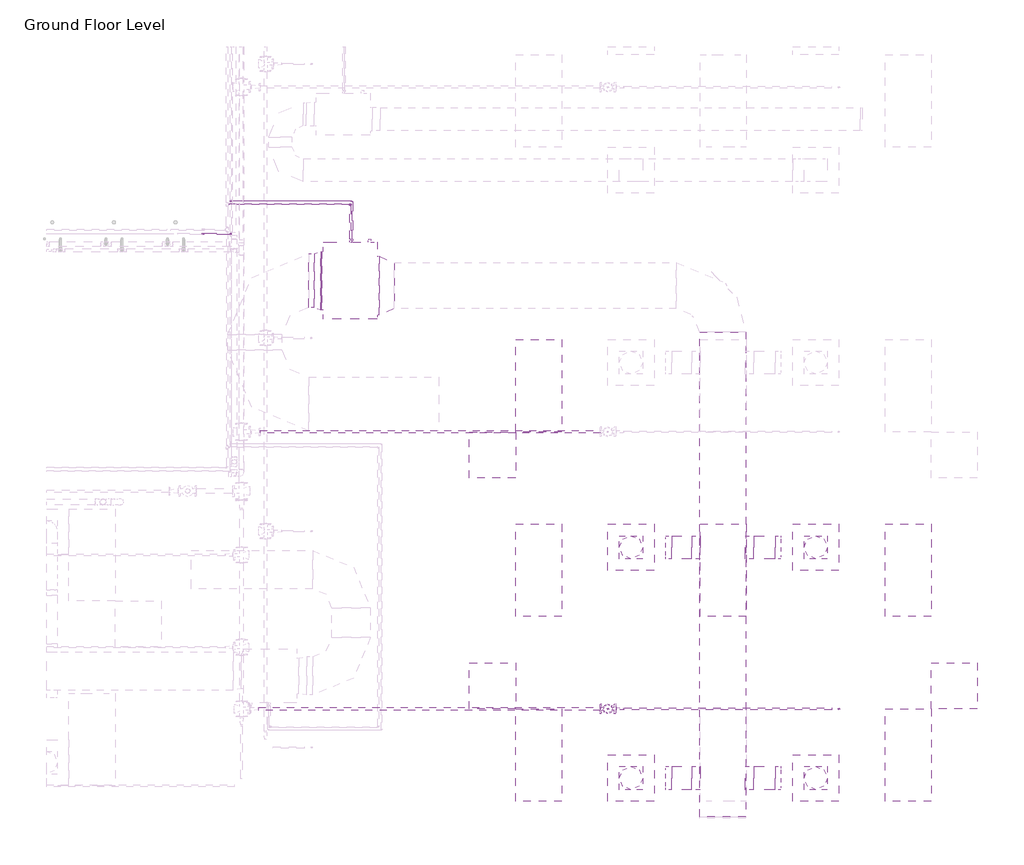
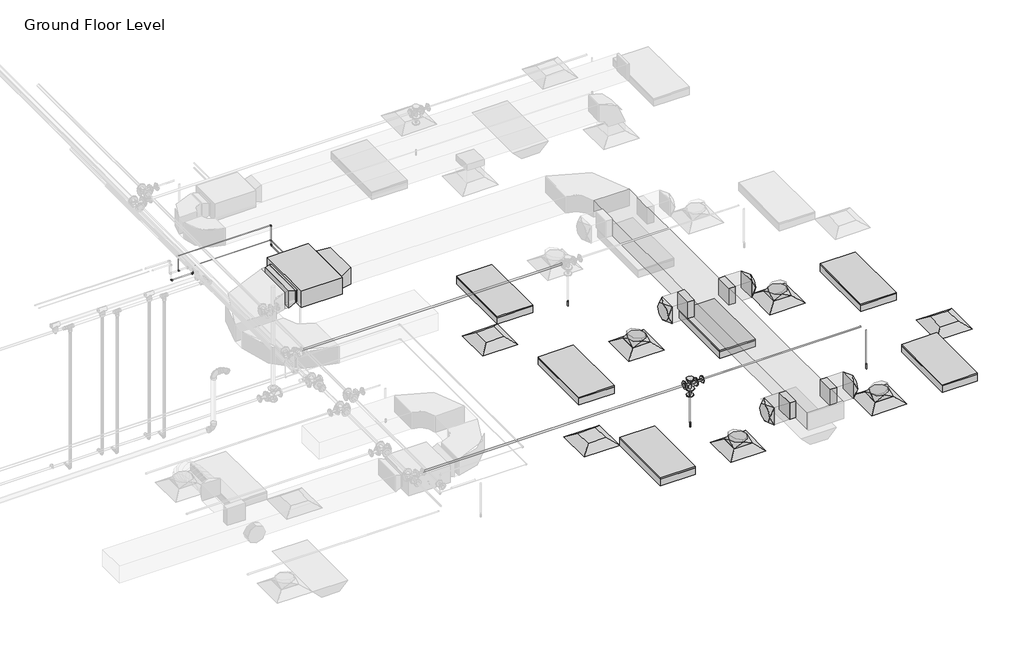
# One storey, part 19 of 75: 14 duct fittings, 13 pipe segments, 11 duct segments, 10 pipe fittings, 7 air terminals, 6 light fixtures, 3 fire suppression terminals, 1 proxy.
"""IFC4 building model written with IfcOpenShell, lengths in millimetres."""

from ifc_helpers import new_model, si_unit, point, frame, frame_2d, origin, place, context, project, spatial, polyline, circle_curve, ellipse_curve, trimmed, segment, composite_curve, outline, extrude, transform, mapped, element, save
from ifc_brep_helpers import plane_surface, cylinder_surface, advanced_brep
from components import m_return_diffuser_600_x_600_face_300_x_300_connection_ff221211, fcu_daikin_iu_7e1df382, m_rectangular_takeoff_standard_cb0ccb98, m_rectangular_takeoff_standard_2be5eba1, m_rectangular_transition_angle_45_degree_93a96896, m_rectangular_transition_angle_45_degree_f6cc18ae, m_rectangular_to_round_transition_angle_45_degree_641efff0, m_sprinkler_dry_pendent_hosted_15_mm_dry_pendent_9bda8e11, m_troffer_light_parabolic_rectangular1_0600x1200mm_4_lamp_86473d4a, m_elbow_generic_standard_a088f956, m_elbow_generic_standard_2a704253, m_elbow_generic_standard_bb5ffebe, m_reducer_flanged_cs_class_150_standard_ccf252ad, m_tee_round_base_flanged_cs_class_150_standard_7e5987a1, m_transition_generic_standard_2d362458

model = new_model("IFC4")

# Units and contexts
model_context = context("Model", 3, world=origin())
ifc_project = project(units=[si_unit("LENGTHUNIT", "METRE", prefix="MILLI")], contexts=[model_context])

# Site, building, storey
site = spatial("IfcSite", under=ifc_project)
building = spatial("IfcBuilding", under=site)
storey = spatial("IfcBuildingStorey", under=building, Name="Ground Floor Level", Elevation=900.0)

# Air terminals
placement = place(None, origin())
m_return_diffuser_600_x_600_face_300_x_300_connection_shape = m_return_diffuser_600_x_600_face_300_x_300_connection_ff221211(model_context)
element("IfcAirTerminal", 1, ObjectType="M_Return Diffuser : 600 x 600 Face 300 x 300 Connection", at=placement, inside=storey, context=model_context, shape_type="MappedRepresentation", body=[
    mapped(m_return_diffuser_600_x_600_face_300_x_300_connection_shape, transform((8943.0482736, -35564.7846466, 3650.0), x_axis=(1.0, 0.0, 0.0), y_axis=(0.0, 1.0, 0.0), z_axis=(0.0, 0.0, 1.0))),
])
element("IfcAirTerminal", 2, ObjectType="M_Return Diffuser : 600 x 600 Face 300 x 300 Connection", at=placement, inside=storey, context=model_context, shape_type="MappedRepresentation", body=[
    mapped(m_return_diffuser_600_x_600_face_300_x_300_connection_shape, transform((8943.0482736, -38564.7846466, 3650.0), x_axis=(1.0, 0.0, 0.0), y_axis=(0.0, 1.0, 0.0), z_axis=(0.0, 0.0, 1.0))),
])
element("IfcAirTerminal", 3, ObjectType="M_Return Diffuser : 600 x 600 Face 300 x 300 Connection", at=placement, inside=storey, context=model_context, shape_type="MappedRepresentation", body=[
    mapped(m_return_diffuser_600_x_600_face_300_x_300_connection_shape, transform((14943.0482736, -38564.7846466, 3650.0), x_axis=(1.0, 0.0, 0.0), y_axis=(0.0, 1.0, 0.0), z_axis=(0.0, 0.0, 1.0))),
])
element("IfcAirTerminal", 4, ObjectType="M_Supply Diffuser : 600 x 600 Face 300 x 300 Connection", at=placement, inside=storey, context=model_context, shape_type="MappedRepresentation", body=[
    mapped(m_return_diffuser_600_x_600_face_300_x_300_connection_shape, transform((10742.7672395, -39764.7846466, 3650.0), x_axis=(1.0, 0.0, 0.0), y_axis=(0.0, 1.0, 0.0), z_axis=(0.0, 0.0, 1.0))),
])
element("IfcAirTerminal", 5, ObjectType="M_Supply Diffuser : 600 x 600 Face 300 x 300 Connection", at=placement, inside=storey, context=model_context, shape_type="MappedRepresentation", body=[
    mapped(m_return_diffuser_600_x_600_face_300_x_300_connection_shape, transform((13142.7672395, -39764.7846466, 3650.0), x_axis=(1.0, 0.0, 0.0), y_axis=(0.0, 1.0, 0.0), z_axis=(0.0, 0.0, 1.0))),
])
element("IfcAirTerminal", 6, ObjectType="M_Supply Diffuser : 600 x 600 Face 300 x 300 Connection", at=placement, inside=storey, context=model_context, shape_type="MappedRepresentation", body=[
    mapped(m_return_diffuser_600_x_600_face_300_x_300_connection_shape, transform((10742.7672395, -36764.7846466, 3650.0), x_axis=(1.0, 0.0, 0.0), y_axis=(0.0, 1.0, 0.0), z_axis=(0.0, 0.0, 1.0))),
])
element("IfcAirTerminal", 7, ObjectType="M_Supply Diffuser : 600 x 600 Face 300 x 300 Connection", at=placement, inside=storey, context=model_context, shape_type="MappedRepresentation", body=[
    mapped(m_return_diffuser_600_x_600_face_300_x_300_connection_shape, transform((13142.7672395, -36764.7846466, 3650.0), x_axis=(1.0, 0.0, 0.0), y_axis=(0.0, 1.0, 0.0), z_axis=(0.0, 0.0, 1.0))),
])

# Proxy
fcu_daikin_iu_shape = fcu_daikin_iu_7e1df382(model_context)
element("IfcBuildingElementProxy", 8, Name="FCU-DAIKIN IU : 7.2kW, 230V/50Hz/1Ph", ObjectType="FCU-DAIKIN IU : 7.2kW, 230V/50Hz/1Ph", at=placement, inside=storey, context=model_context, shape_type="MappedRepresentation", body=[
    mapped(fcu_daikin_iu_shape, transform((7098.4644074, -33301.2726336, 3934.0875), x_axis=(0.0, 1.0, 0.0), y_axis=(-1.0, 0.0, 0.0), z_axis=(0.0, 0.0, 1.0))),
])

# Duct fittings
m_rectangular_takeoff_standard_shape = m_rectangular_takeoff_standard_cb0ccb98(model_context)
element("IfcDuctFitting", 9, ObjectType="M_Rectangular Takeoff : Standard", at=placement, inside=storey, context=model_context, shape_type="MappedRepresentation", body=[
    mapped(m_rectangular_takeoff_standard_shape, transform((12233.8644074, -36764.7846466, 4099.9875), x_axis=(1.0, 0.0, 0.0), y_axis=(0.0, -1.0, 0.0), z_axis=(0.0, 0.0, -1.0))),
])
element("IfcDuctFitting", 10, ObjectType="M_Rectangular Takeoff : Standard", at=placement, inside=storey, context=model_context, shape_type="MappedRepresentation", body=[
    mapped(m_rectangular_takeoff_standard_shape, transform((12233.8644074, -39764.7846466, 4099.9875), x_axis=(1.0, 0.0, 0.0), y_axis=(0.0, -1.0, 0.0), z_axis=(0.0, 0.0, -1.0))),
])
m_rectangular_takeoff_standard_2_shape = m_rectangular_takeoff_standard_2be5eba1(model_context)
element("IfcDuctFitting", 11, ObjectType="M_Rectangular Takeoff : Standard", at=placement, inside=storey, context=model_context, shape_type="MappedRepresentation", body=[
    mapped(m_rectangular_takeoff_standard_2_shape, transform((11633.8644074, -36764.7846466, 4099.9875), x_axis=(-1.0, 0.0, 0.0), y_axis=(0.0, 1.0, 0.0), z_axis=(0.0, 0.0, -1.0))),
])
element("IfcDuctFitting", 12, ObjectType="M_Rectangular Takeoff : Standard", at=placement, inside=storey, context=model_context, shape_type="MappedRepresentation", body=[
    mapped(m_rectangular_takeoff_standard_2_shape, transform((11633.8644074, -39764.7846466, 4099.9875), x_axis=(-1.0, 0.0, 0.0), y_axis=(0.0, 1.0, 0.0), z_axis=(0.0, 0.0, -1.0))),
])
m_rectangular_transition_angle_45_degree_shape = m_rectangular_transition_angle_45_degree_93a96896(model_context)
element("IfcDuctFitting", 13, ObjectType="M_Rectangular Transition - Angle : 45 Degree", at=placement, inside=storey, context=model_context, shape_type="MappedRepresentation", body=[
    mapped(m_rectangular_transition_angle_45_degree_shape, transform((7473.8644074, -33364.7726336, 4100.0), x_axis=(1.0, 0.0, 0.0), y_axis=(0.0, 1.0, 0.0), z_axis=(0.0, 0.0, 1.0))),
])
m_rectangular_transition_angle_45_degree_2_shape = m_rectangular_transition_angle_45_degree_f6cc18ae(model_context)
element("IfcDuctFitting", 14, ObjectType="M_Rectangular Transition - Angle : 45 Degree", at=placement, inside=storey, context=model_context, shape_type="MappedRepresentation", body=[
    mapped(m_rectangular_transition_angle_45_degree_2_shape, transform((6711.4162578, -33301.2726336, 4075.2908943), x_axis=(-0.9999999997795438, 0.0, 2.0997916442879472e-05), y_axis=(0.0, -1.0, 0.0), z_axis=(2.0997916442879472e-05, 0.0, 0.9999999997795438))),
])
m_rectangular_to_round_transition_angle_45_degree_shape = m_rectangular_to_round_transition_angle_45_degree_641efff0(model_context)
element("IfcDuctFitting", 15, ObjectType="M_Rectangular to Round Transition - Angle : 45 Degree", at=placement, inside=storey, context=model_context, shape_type="MappedRepresentation", body=[
    mapped(m_rectangular_to_round_transition_angle_45_degree_shape, transform((13142.7672395, -36764.7846466, 3751.6), x_axis=(0.0, 0.0, 1.0), y_axis=(-1.0, 0.0, 0.0), z_axis=(0.0, -1.0, 0.0))),
])
element("IfcDuctFitting", 16, ObjectType="M_Rectangular to Round Transition - Angle : 45 Degree", at=placement, inside=storey, context=model_context, shape_type="MappedRepresentation", body=[
    mapped(m_rectangular_to_round_transition_angle_45_degree_shape, transform((12615.4188082, -36764.7846466, 4099.9875), x_axis=(1.0, 0.0, 0.0), y_axis=(0.0, 1.0, 0.0), z_axis=(0.0, 0.0, 1.0))),
])
element("IfcDuctFitting", 17, ObjectType="M_Rectangular to Round Transition - Angle : 45 Degree", at=placement, inside=storey, context=model_context, shape_type="MappedRepresentation", body=[
    mapped(m_rectangular_to_round_transition_angle_45_degree_shape, transform((10742.7672395, -36764.7846466, 3751.6), x_axis=(0.0, 0.0, 1.0), y_axis=(-1.0, 0.0, 0.0), z_axis=(0.0, -1.0, 0.0))),
])
element("IfcDuctFitting", 18, ObjectType="M_Rectangular to Round Transition - Angle : 45 Degree", at=placement, inside=storey, context=model_context, shape_type="MappedRepresentation", body=[
    mapped(m_rectangular_to_round_transition_angle_45_degree_shape, transform((11270.1156708, -36764.7846466, 4099.9875), x_axis=(-1.0, 0.0, 0.0), y_axis=(0.0, -1.0, 0.0), z_axis=(0.0, 0.0, 1.0))),
])
element("IfcDuctFitting", 19, ObjectType="M_Rectangular to Round Transition - Angle : 45 Degree", at=placement, inside=storey, context=model_context, shape_type="MappedRepresentation", body=[
    mapped(m_rectangular_to_round_transition_angle_45_degree_shape, transform((10742.7672395, -39764.7846466, 3751.6), x_axis=(0.0, 0.0, 1.0), y_axis=(-1.0, 0.0, 0.0), z_axis=(0.0, -1.0, 0.0))),
])
element("IfcDuctFitting", 20, ObjectType="M_Rectangular to Round Transition - Angle : 45 Degree", at=placement, inside=storey, context=model_context, shape_type="MappedRepresentation", body=[
    mapped(m_rectangular_to_round_transition_angle_45_degree_shape, transform((11270.1156708, -39764.7846466, 4099.9875), x_axis=(-1.0, 0.0, 0.0), y_axis=(0.0, -1.0, 0.0), z_axis=(0.0, 0.0, 1.0))),
])
element("IfcDuctFitting", 21, ObjectType="M_Rectangular to Round Transition - Angle : 45 Degree", at=placement, inside=storey, context=model_context, shape_type="MappedRepresentation", body=[
    mapped(m_rectangular_to_round_transition_angle_45_degree_shape, transform((13142.7672395, -39764.7846466, 3751.6), x_axis=(0.0, 0.0, 1.0), y_axis=(-1.0, 0.0, 0.0), z_axis=(0.0, -1.0, 0.0))),
])
element("IfcDuctFitting", 22, ObjectType="M_Rectangular to Round Transition - Angle : 45 Degree", at=placement, inside=storey, context=model_context, shape_type="MappedRepresentation", body=[
    mapped(m_rectangular_to_round_transition_angle_45_degree_shape, transform((12615.4188082, -39764.7846466, 4099.9875), x_axis=(1.0, 0.0, 0.0), y_axis=(0.0, 1.0, 0.0), z_axis=(0.0, 0.0, 1.0))),
])

# Duct segments
element("IfcDuctSegment", 23, ObjectType="Flex - Round", at=placement, inside=storey, context=model_context, shape_type="AdvancedBrep", body=[
    advanced_brep(
    [(13292.7672395, -36764.7846466, 3826.6), (13142.7672395, -36914.7846466, 3826.6), (12992.7672395, -36764.7846466, 3826.6), (13142.7672395, -36614.7846466, 3826.6), (13292.7672395, -36764.7846466, 3899.2205895), (13142.7672395, -36614.7846466, 3864.5152119), (12992.7672395, -36764.7846466, 3829.8098344), (13142.7672395, -36914.7846466, 3864.5152119)],
    [
        (0, 1, circle_curve(frame((13142.7672395, -36764.7846466, 3826.6), z_axis=(0.0, 0.0, -1.0), x_axis=(1.0, 0.0, 0.0)), 150.0)),
        (1, 2, circle_curve(frame((13142.7672395, -36764.7846466, 3826.6), z_axis=(0.0, 0.0, -1.0), x_axis=(1.0, 0.0, 0.0)), 150.0)),
        (2, 3, circle_curve(frame((13142.7672395, -36764.7846466, 3826.6), z_axis=(0.0, 0.0, -1.0), x_axis=(1.0, 0.0, 0.0)), 150.0)),
        (3, 0, circle_curve(frame((13142.7672395, -36764.7846466, 3826.6), z_axis=(0.0, 0.0, -1.0), x_axis=(1.0, 0.0, 0.0)), 150.0)),
        (4, 5, ellipse_curve(frame((13142.7672395, -36764.7846466, 3864.5152119), z_axis=(-0.22541442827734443, 0.0, 0.9742629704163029), x_axis=(-0.9742629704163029, 0.0, -0.22541442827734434)), 153.9625384, 150.0)),
        (5, 6, ellipse_curve(frame((13142.7672395, -36764.7846466, 3864.5152119), z_axis=(-0.22541442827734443, 0.0, 0.9742629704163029), x_axis=(-0.9742629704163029, 0.0, -0.22541442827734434)), 153.9625384, 150.0)),
        (6, 7, ellipse_curve(frame((13142.7672395, -36764.7846466, 3864.5152119), z_axis=(-0.22541442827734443, 0.0, 0.9742629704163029), x_axis=(-0.9742629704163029, 0.0, -0.22541442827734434)), 153.9625384, 150.0)),
        (7, 4, ellipse_curve(frame((13142.7672395, -36764.7846466, 3864.5152119), z_axis=(-0.22541442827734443, 0.0, 0.9742629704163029), x_axis=(-0.9742629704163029, 0.0, -0.22541442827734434)), 153.9625384, 150.0)),
        (0, 4),
        (7, 1),
        (6, 2),
        (5, 3),
    ],
    [
        plane_surface(frame((13142.7672395, -36914.7846466, 3826.6), z_axis=(0.0, 0.0, -1.0), x_axis=(1.0, 0.0, 0.0))),
        plane_surface(frame((13142.7672395, -36614.7846466, 3864.5152119), z_axis=(-0.22541442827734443, 0.0, 0.9742629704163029), x_axis=(-0.9742629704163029, 0.0, -0.22541442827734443))),
        cylinder_surface(frame((13142.7672395, -36764.7846466, 3826.6), z_axis=(0.0, 0.0, -1.0), x_axis=(1.0, 0.0, 0.0)), 150.0),
    ],
    [
        (0, [[1, 2, 3, 4]]),
        (1, [[5, 6, 7, 8]]),
        (2, [[-1, 9, -8, 10]]),
        (2, [[-2, -10, -7, 11]]),
        (2, [[-3, -11, -6, 12]]),
        (2, [[-4, -12, -5, -9]]),
    ],
),
])
element("IfcDuctSegment", 24, ObjectType="Flex - Round", at=placement, inside=storey, context=model_context, shape_type="AdvancedBrep", body=[
    advanced_brep(
    [(10892.7672395, -36764.7846466, 3826.6), (10742.7672395, -36914.7846466, 3826.6), (10592.7672395, -36764.7846466, 3826.6), (10742.7672395, -36614.7846466, 3826.6), (10892.7672395, -36764.7846466, 3829.8098344), (10742.7672395, -36614.7846466, 3864.5152119), (10592.7672395, -36764.7846466, 3899.2205895), (10742.7672395, -36914.7846466, 3864.5152119)],
    [
        (0, 1, circle_curve(frame((10742.7672395, -36764.7846466, 3826.6), z_axis=(0.0, 0.0, -1.0), x_axis=(1.0, 0.0, 0.0)), 150.0)),
        (1, 2, circle_curve(frame((10742.7672395, -36764.7846466, 3826.6), z_axis=(0.0, 0.0, -1.0), x_axis=(1.0, 0.0, 0.0)), 150.0)),
        (2, 3, circle_curve(frame((10742.7672395, -36764.7846466, 3826.6), z_axis=(0.0, 0.0, -1.0), x_axis=(1.0, 0.0, 0.0)), 150.0)),
        (3, 0, circle_curve(frame((10742.7672395, -36764.7846466, 3826.6), z_axis=(0.0, 0.0, -1.0), x_axis=(1.0, 0.0, 0.0)), 150.0)),
        (4, 5, ellipse_curve(frame((10742.7672395, -36764.7846466, 3864.5152119), z_axis=(0.22541442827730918, 0.0, 0.9742629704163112), x_axis=(0.9742629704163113, 0.0, -0.2254144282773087)), 153.9625384, 150.0)),
        (5, 6, ellipse_curve(frame((10742.7672395, -36764.7846466, 3864.5152119), z_axis=(0.22541442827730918, 0.0, 0.9742629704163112), x_axis=(0.9742629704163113, 0.0, -0.2254144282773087)), 153.9625384, 150.0)),
        (6, 7, ellipse_curve(frame((10742.7672395, -36764.7846466, 3864.5152119), z_axis=(0.22541442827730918, 0.0, 0.9742629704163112), x_axis=(0.9742629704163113, 0.0, -0.2254144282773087)), 153.9625384, 150.0)),
        (7, 4, ellipse_curve(frame((10742.7672395, -36764.7846466, 3864.5152119), z_axis=(0.22541442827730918, 0.0, 0.9742629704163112), x_axis=(0.9742629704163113, 0.0, -0.2254144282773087)), 153.9625384, 150.0)),
        (0, 4),
        (7, 1),
        (6, 2),
        (5, 3),
    ],
    [
        plane_surface(frame((10742.7672395, -36914.7846466, 3826.6), z_axis=(0.0, 0.0, -1.0), x_axis=(1.0, 0.0, 0.0))),
        plane_surface(frame((10742.7672395, -36914.7846466, 3864.5152119), z_axis=(0.22541442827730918, 0.0, 0.9742629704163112), x_axis=(0.9742629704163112, 0.0, -0.22541442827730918))),
        cylinder_surface(frame((10742.7672395, -36764.7846466, 3826.6), z_axis=(0.0, 0.0, -1.0), x_axis=(1.0, 0.0, 0.0)), 150.0),
    ],
    [
        (0, [[1, 2, 3, 4]]),
        (1, [[5, 6, 7, 8]]),
        (2, [[-1, 9, -8, 10]]),
        (2, [[-2, -10, -7, 11]]),
        (2, [[-3, -11, -6, 12]]),
        (2, [[-4, -12, -5, -9]]),
    ],
),
])
element("IfcDuctSegment", 25, ObjectType="Flex - Round", at=placement, inside=storey, context=model_context, shape_type="AdvancedBrep", body=[
    advanced_brep(
    [(10892.7672395, -39764.7846466, 3826.6), (10742.7672395, -39914.7846466, 3826.6), (10592.7672395, -39764.7846466, 3826.6), (10742.7672395, -39614.7846466, 3826.6), (10892.7672395, -39764.7846466, 3829.8098344), (10742.7672395, -39614.7846466, 3864.5152119), (10592.7672395, -39764.7846466, 3899.2205895), (10742.7672395, -39914.7846466, 3864.5152119)],
    [
        (0, 1, circle_curve(frame((10742.7672395, -39764.7846466, 3826.6), z_axis=(0.0, 0.0, -1.0), x_axis=(1.0, 0.0, 0.0)), 150.0)),
        (1, 2, circle_curve(frame((10742.7672395, -39764.7846466, 3826.6), z_axis=(0.0, 0.0, -1.0), x_axis=(1.0, 0.0, 0.0)), 150.0)),
        (2, 3, circle_curve(frame((10742.7672395, -39764.7846466, 3826.6), z_axis=(0.0, 0.0, -1.0), x_axis=(1.0, 0.0, 0.0)), 150.0)),
        (3, 0, circle_curve(frame((10742.7672395, -39764.7846466, 3826.6), z_axis=(0.0, 0.0, -1.0), x_axis=(1.0, 0.0, 0.0)), 150.0)),
        (4, 5, ellipse_curve(frame((10742.7672395, -39764.7846466, 3864.5152119), z_axis=(0.22541442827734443, 0.0, 0.9742629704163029), x_axis=(0.9742629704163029, 0.0, -0.22541442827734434)), 153.9625384, 150.0)),
        (5, 6, ellipse_curve(frame((10742.7672395, -39764.7846466, 3864.5152119), z_axis=(0.22541442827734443, 0.0, 0.9742629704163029), x_axis=(0.9742629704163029, 0.0, -0.22541442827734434)), 153.9625384, 150.0)),
        (6, 7, ellipse_curve(frame((10742.7672395, -39764.7846466, 3864.5152119), z_axis=(0.22541442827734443, 0.0, 0.9742629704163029), x_axis=(0.9742629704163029, 0.0, -0.22541442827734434)), 153.9625384, 150.0)),
        (7, 4, ellipse_curve(frame((10742.7672395, -39764.7846466, 3864.5152119), z_axis=(0.22541442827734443, 0.0, 0.9742629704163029), x_axis=(0.9742629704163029, 0.0, -0.22541442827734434)), 153.9625384, 150.0)),
        (0, 4),
        (7, 1),
        (6, 2),
        (5, 3),
    ],
    [
        plane_surface(frame((10742.7672395, -39914.7846466, 3826.6), z_axis=(0.0, 0.0, -1.0), x_axis=(1.0, 0.0, 0.0))),
        plane_surface(frame((10742.7672395, -39914.7846466, 3864.5152119), z_axis=(0.22541442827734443, 0.0, 0.9742629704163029), x_axis=(0.9742629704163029, 0.0, -0.22541442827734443))),
        cylinder_surface(frame((10742.7672395, -39764.7846466, 3826.6), z_axis=(0.0, 0.0, -1.0), x_axis=(1.0, 0.0, 0.0)), 150.0),
    ],
    [
        (0, [[1, 2, 3, 4]]),
        (1, [[5, 6, 7, 8]]),
        (2, [[-1, 9, -8, 10]]),
        (2, [[-2, -10, -7, 11]]),
        (2, [[-3, -11, -6, 12]]),
        (2, [[-4, -12, -5, -9]]),
    ],
),
])
element("IfcDuctSegment", 26, ObjectType="Flex - Round", at=placement, inside=storey, context=model_context, shape_type="AdvancedBrep", body=[
    advanced_brep(
    [(13292.7672395, -39764.7846466, 3826.6), (13142.7672395, -39914.7846466, 3826.6), (12992.7672395, -39764.7846466, 3826.6), (13142.7672395, -39614.7846466, 3826.6), (13292.7672395, -39764.7846466, 3899.2205895), (13142.7672395, -39614.7846466, 3864.5152119), (12992.7672395, -39764.7846466, 3829.8098344), (13142.7672395, -39914.7846466, 3864.5152119)],
    [
        (0, 1, circle_curve(frame((13142.7672395, -39764.7846466, 3826.6), z_axis=(0.0, 0.0, -1.0), x_axis=(1.0, 0.0, 0.0)), 150.0)),
        (1, 2, circle_curve(frame((13142.7672395, -39764.7846466, 3826.6), z_axis=(0.0, 0.0, -1.0), x_axis=(1.0, 0.0, 0.0)), 150.0)),
        (2, 3, circle_curve(frame((13142.7672395, -39764.7846466, 3826.6), z_axis=(0.0, 0.0, -1.0), x_axis=(1.0, 0.0, 0.0)), 150.0)),
        (3, 0, circle_curve(frame((13142.7672395, -39764.7846466, 3826.6), z_axis=(0.0, 0.0, -1.0), x_axis=(1.0, 0.0, 0.0)), 150.0)),
        (4, 5, ellipse_curve(frame((13142.7672395, -39764.7846466, 3864.5152119), z_axis=(-0.22541442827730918, 0.0, 0.9742629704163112), x_axis=(-0.9742629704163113, 0.0, -0.2254144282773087)), 153.9625384, 150.0)),
        (5, 6, ellipse_curve(frame((13142.7672395, -39764.7846466, 3864.5152119), z_axis=(-0.22541442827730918, 0.0, 0.9742629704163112), x_axis=(-0.9742629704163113, 0.0, -0.2254144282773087)), 153.9625384, 150.0)),
        (6, 7, ellipse_curve(frame((13142.7672395, -39764.7846466, 3864.5152119), z_axis=(-0.22541442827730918, 0.0, 0.9742629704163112), x_axis=(-0.9742629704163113, 0.0, -0.2254144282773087)), 153.9625384, 150.0)),
        (7, 4, ellipse_curve(frame((13142.7672395, -39764.7846466, 3864.5152119), z_axis=(-0.22541442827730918, 0.0, 0.9742629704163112), x_axis=(-0.9742629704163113, 0.0, -0.2254144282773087)), 153.9625384, 150.0)),
        (0, 4),
        (7, 1),
        (6, 2),
        (5, 3),
    ],
    [
        plane_surface(frame((13142.7672395, -39914.7846466, 3826.6), z_axis=(0.0, 0.0, -1.0), x_axis=(1.0, 0.0, 0.0))),
        plane_surface(frame((13142.7672395, -39614.7846466, 3864.5152119), z_axis=(-0.22541442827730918, 0.0, 0.9742629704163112), x_axis=(-0.9742629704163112, 0.0, -0.22541442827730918))),
        cylinder_surface(frame((13142.7672395, -39764.7846466, 3826.6), z_axis=(0.0, 0.0, -1.0), x_axis=(1.0, 0.0, 0.0)), 150.0),
    ],
    [
        (0, [[1, 2, 3, 4]]),
        (1, [[5, 6, 7, 8]]),
        (2, [[-1, 9, -8, 10]]),
        (2, [[-2, -10, -7, 11]]),
        (2, [[-3, -11, -6, 12]]),
        (2, [[-4, -12, -5, -9]]),
    ],
),
])
element("IfcDuctSegment", 27, ObjectType="Radius Elbows / Taps", at=placement, inside=storey, context=model_context, shape_type="SweptSolid", body=[
    extrude(outline(polyline([(11633.8644074, -33964.7726336), (12233.8644074, -33964.7726336), (12233.8644074, -40264.7726336), (11633.8644074, -40264.7726336), (11633.8644074, -33964.7726336)])), frame((0.0, 0.0, 3949.9875), z_axis=(0.0, 0.0, 1.0), x_axis=(1.0, 0.0, 0.0)), (0.0, 0.0, 1.0), 300.0),
])
element("IfcDuctSegment", 28, ObjectType="Radius Elbows / Taps", at=placement, inside=storey, context=model_context, shape_type="SweptSolid", body=[
    extrude(outline(polyline([(12335.4644074, -36914.7846466), (12335.4644074, -36614.7846466), (12615.4188082, -36614.7846466), (12615.4188082, -36914.7846466), (12335.4644074, -36914.7846466)])), frame((0.0, 0.0, 3949.9875), z_axis=(0.0, 0.0, 1.0), x_axis=(1.0, 0.0, 0.0)), (0.0, 0.0, 1.0), 300.0),
])
element("IfcDuctSegment", 29, ObjectType="Radius Elbows / Taps", at=placement, inside=storey, context=model_context, shape_type="SweptSolid", body=[
    extrude(outline(polyline([(11532.2644074, -36614.7846466), (11532.2644074, -36914.7846466), (11270.1156708, -36914.7846466), (11270.1156708, -36614.7846466), (11532.2644074, -36614.7846466)])), frame((0.0, 0.0, 3949.9875), z_axis=(0.0, 0.0, 1.0), x_axis=(1.0, 0.0, 0.0)), (0.0, 0.0, 1.0), 300.0),
])
element("IfcDuctSegment", 30, ObjectType="Radius Elbows / Taps", at=placement, inside=storey, context=model_context, shape_type="SweptSolid", body=[
    extrude(outline(polyline([(11532.2644074, -39614.7846466), (11532.2644074, -39914.7846466), (11270.1156708, -39914.7846466), (11270.1156708, -39614.7846466), (11532.2644074, -39614.7846466)])), frame((0.0, 0.0, 3949.9875), z_axis=(0.0, 0.0, 1.0), x_axis=(1.0, 0.0, 0.0)), (0.0, 0.0, 1.0), 300.0),
])
element("IfcDuctSegment", 31, ObjectType="Radius Elbows / Taps", at=placement, inside=storey, context=model_context, shape_type="SweptSolid", body=[
    extrude(outline(polyline([(12335.4644074, -39914.7846466), (12335.4644074, -39614.7846466), (12615.4188082, -39614.7846466), (12615.4188082, -39914.7846466), (12335.4644074, -39914.7846466)])), frame((0.0, 0.0, 3949.9875), z_axis=(0.0, 0.0, 1.0), x_axis=(1.0, 0.0, 0.0)), (0.0, 0.0, 1.0), 300.0),
])
element("IfcDuctSegment", 32, ObjectType="Radius Elbows / Taps", at=placement, inside=storey, context=model_context, shape_type="SweptSolid", body=[
    extrude(outline(polyline([(0.0, -761.875), (0.0, 0.0), (11.6481501, 0.0), (11.6481501, -761.875), (0.0, -761.875)])), frame((6711.3850343, -32920.3351336, 3968.1408988), z_axis=(0.00029140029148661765, 0.0, 0.9999999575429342), x_axis=(0.9999999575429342, 0.0, -0.00029140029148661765)), (0.0, 0.0, 1.0), 214.3),
])
element("IfcDuctSegment", 33, ObjectType="Radius Elbows / Taps", at=placement, inside=storey, context=model_context, shape_type="SweptSolid", body=[
    extrude(outline(polyline([(6557.7672394, -33651.2726336), (6557.7672394, -32951.2726336), (6625.7187526, -32951.2726336), (6625.7187526, -33651.2726336), (6557.7672394, -33651.2726336)])), frame((0.0, 0.0, 3882.4375), z_axis=(0.0, 0.0, 1.0), x_axis=(1.0, 0.0, 0.0)), (0.0, 0.0, 1.0), 300.0),
])

# Fire suppression terminals
m_sprinkler_dry_pendent_hosted_15_mm_dry_pendent_shape = m_sprinkler_dry_pendent_hosted_15_mm_dry_pendent_9bda8e11(model_context)
element("IfcFireSuppressionTerminal", 34, ObjectType="M_Sprinkler - Dry - Pendent - Hosted : 15 mm Dry Pendent", at=placement, inside=storey, context=model_context, shape_type="MappedRepresentation", body=[
    mapped(m_sprinkler_dry_pendent_hosted_15_mm_dry_pendent_shape, transform((10443.0482736, -35264.7846466, 3650.0), x_axis=(1.0, 0.0, 0.0), y_axis=(0.0, -1.0, 0.0), z_axis=(0.0, 0.0, -1.0))),
])
element("IfcFireSuppressionTerminal", 35, ObjectType="M_Sprinkler - Dry - Pendent - Hosted : 15 mm Dry Pendent", at=placement, inside=storey, context=model_context, shape_type="MappedRepresentation", body=[
    mapped(m_sprinkler_dry_pendent_hosted_15_mm_dry_pendent_shape, transform((10443.0482736, -38864.7846466, 3650.0), x_axis=(1.0, 0.0, 0.0), y_axis=(0.0, -1.0, 0.0), z_axis=(0.0, 0.0, -1.0))),
])
element("IfcFireSuppressionTerminal", 36, ObjectType="M_Sprinkler - Dry - Pendent - Hosted : 15 mm Dry Pendent", at=placement, inside=storey, context=model_context, shape_type="MappedRepresentation", body=[
    mapped(m_sprinkler_dry_pendent_hosted_15_mm_dry_pendent_shape, transform((13443.0482736, -38864.7846466, 3650.0), x_axis=(1.0, 0.0, 0.0), y_axis=(0.0, -1.0, 0.0), z_axis=(0.0, 0.0, -1.0))),
])

# Light fixtures
m_troffer_light_parabolic_rectangular1_0600x1200mm_4_lamp_shape = m_troffer_light_parabolic_rectangular1_0600x1200mm_4_lamp_86473d4a(model_context)
element("IfcLightFixture", 37, ObjectType="M_Troffer Light - Parabolic Rectangular1 : 0600x1200mm(4 Lamp) - 277V 2", at=placement, inside=storey, context=model_context, shape_type="MappedRepresentation", body=[
    mapped(m_troffer_light_parabolic_rectangular1_0600x1200mm_4_lamp_shape, transform((9483.5823415, -34646.0811451, 3650.0), x_axis=(0.0, 1.0, 0.0), y_axis=(-1.0, 0.0, 0.0), z_axis=(0.0, 0.0, 1.0))),
])
element("IfcLightFixture", 38, ObjectType="M_Troffer Light - Parabolic Rectangular1 : 0600x1200mm(4 Lamp) - 277V 2", at=placement, inside=storey, context=model_context, shape_type="MappedRepresentation", body=[
    mapped(m_troffer_light_parabolic_rectangular1_0600x1200mm_4_lamp_shape, transform((9483.5823415, -37046.0811451, 3650.0), x_axis=(0.0, 1.0, 0.0), y_axis=(-1.0, 0.0, 0.0), z_axis=(0.0, 0.0, 1.0))),
])
element("IfcLightFixture", 39, ObjectType="M_Troffer Light - Parabolic Rectangular1 : 0600x1200mm(4 Lamp) - 277V 2", at=placement, inside=storey, context=model_context, shape_type="MappedRepresentation", body=[
    mapped(m_troffer_light_parabolic_rectangular1_0600x1200mm_4_lamp_shape, transform((14283.5823415, -37046.0811451, 3650.0), x_axis=(0.0, 1.0, 0.0), y_axis=(-1.0, 0.0, 0.0), z_axis=(0.0, 0.0, 1.0))),
])
element("IfcLightFixture", 40, ObjectType="M_Troffer Light - Parabolic Rectangular1 : 0600x1200mm(4 Lamp) - 277V 2", at=placement, inside=storey, context=model_context, shape_type="MappedRepresentation", body=[
    mapped(m_troffer_light_parabolic_rectangular1_0600x1200mm_4_lamp_shape, transform((9483.5823415, -39446.0811451, 3650.0), x_axis=(0.0, 1.0, 0.0), y_axis=(-1.0, 0.0, 0.0), z_axis=(0.0, 0.0, 1.0))),
])
element("IfcLightFixture", 41, ObjectType="M_Troffer Light - Parabolic Rectangular1 : 0600x1200mm(4 Lamp) - 277V 2", at=placement, inside=storey, context=model_context, shape_type="MappedRepresentation", body=[
    mapped(m_troffer_light_parabolic_rectangular1_0600x1200mm_4_lamp_shape, transform((14283.5823415, -39446.0811451, 3650.0), x_axis=(0.0, 1.0, 0.0), y_axis=(-1.0, 0.0, 0.0), z_axis=(0.0, 0.0, 1.0))),
])
element("IfcLightFixture", 42, ObjectType="M_Troffer Light - Parabolic Rectangular1 : 0600x1200mm(4 Lamp) - 277V 2", at=placement, inside=storey, context=model_context, shape_type="MappedRepresentation", body=[
    mapped(m_troffer_light_parabolic_rectangular1_0600x1200mm_4_lamp_shape, transform((11883.5823415, -37046.0811451, 3650.0), x_axis=(0.0, 1.0, 0.0), y_axis=(-1.0, 0.0, 0.0), z_axis=(0.0, 0.0, 1.0))),
])

# Pipe fittings
m_elbow_generic_standard_shape = m_elbow_generic_standard_a088f956(model_context)
element("IfcPipeFitting", 43, ObjectType="M_Elbow - Generic : Standard", at=placement, inside=storey, context=model_context, shape_type="MappedRepresentation", body=[
    mapped(m_elbow_generic_standard_shape, transform((7098.4644074, -32307.4513653, 4390.0), x_axis=(1.0, 0.0, 0.0), y_axis=(0.0, 0.0, -1.0), z_axis=(0.0, 1.0, 0.0))),
])
element("IfcPipeFitting", 44, ObjectType="M_Elbow - Generic : Standard", at=placement, inside=storey, context=model_context, shape_type="MappedRepresentation", body=[
    mapped(m_elbow_generic_standard_shape, transform((7098.4644074, -32307.4513653, 4034.0875), x_axis=(0.0, 0.0, -1.0), y_axis=(0.0, -1.0, 0.0), z_axis=(-1.0, 0.0, 0.0))),
])
m_elbow_generic_standard_2_shape = m_elbow_generic_standard_2a704253(model_context)
element("IfcPipeFitting", 45, ObjectType="M_Elbow - Generic : Standard", at=placement, inside=storey, context=model_context, shape_type="MappedRepresentation", body=[
    mapped(m_elbow_generic_standard_2_shape, transform((7123.4644074, -32264.9316535, 4084.8875), x_axis=(0.0, 1.0, 0.0), y_axis=(-0.9999999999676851, 0.0, 8.039269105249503e-06), z_axis=(8.039269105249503e-06, 0.0, 0.9999999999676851))),
])
element("IfcPipeFitting", 46, ObjectType="M_Elbow - Generic : Standard", at=placement, inside=storey, context=model_context, shape_type="MappedRepresentation", body=[
    mapped(m_elbow_generic_standard_2_shape, transform((5543.9904113, -32264.9316538, 4084.9001978), x_axis=(0.0, 0.0, -1.0), y_axis=(1.0, 0.0, 0.0), z_axis=(0.0, -1.0, 0.0))),
])
m_elbow_generic_standard_3_shape = m_elbow_generic_standard_bb5ffebe(model_context)
element("IfcPipeFitting", 47, ObjectType="M_Elbow - Generic : Standard", at=placement, inside=storey, context=model_context, shape_type="MappedRepresentation", body=[
    mapped(m_elbow_generic_standard_3_shape, transform((5543.9904113, -32691.5527522, 4300.0), x_axis=(0.0, 0.0, -1.0), y_axis=(-1.0, 0.0, 0.0), z_axis=(0.0, 1.0, 0.0))),
])
element("IfcPipeFitting", 48, ObjectType="M_Elbow - Generic : Standard", at=placement, inside=storey, context=model_context, shape_type="MappedRepresentation", body=[
    mapped(m_elbow_generic_standard_3_shape, transform((5176.1749541, -32691.5527522, 4300.0), x_axis=(0.0, 0.0, -1.0), y_axis=(1.0, 0.0, 0.0), z_axis=(0.0, -1.0, 0.0))),
])
m_reducer_flanged_cs_class_150_standard_shape = m_reducer_flanged_cs_class_150_standard_ccf252ad(model_context)
element("IfcPipeFitting", 49, ObjectType="M_Reducer - Flanged - CS - Class 150 : Standard", at=placement, inside=storey, context=model_context, shape_type="MappedRepresentation", body=[
    mapped(m_reducer_flanged_cs_class_150_standard_shape, transform((10543.7568674, -38864.7846466, 4347.5), x_axis=(1.0, 0.0, 0.0), y_axis=(0.0, 0.0, 1.0), z_axis=(0.0, -1.0, 0.0))),
])
element("IfcPipeFitting", 50, ObjectType="M_Reducer - Flanged - CS - Class 150 : Standard", at=placement, inside=storey, context=model_context, shape_type="MappedRepresentation", body=[
    mapped(m_reducer_flanged_cs_class_150_standard_shape, transform((10443.0482736, -38864.7846466, 4246.7914062), x_axis=(0.0, 0.0, -1.0), y_axis=(-1.0, 0.0, 0.0), z_axis=(0.0, 1.0, 0.0))),
])
m_tee_round_base_flanged_cs_class_150_standard_shape = m_tee_round_base_flanged_cs_class_150_standard_7e5987a1(model_context)
element("IfcPipeFitting", 51, ObjectType="M_Tee Round Base - Flanged - CS - Class 150 : Standard", at=placement, inside=storey, context=model_context, shape_type="MappedRepresentation", body=[
    mapped(m_tee_round_base_flanged_cs_class_150_standard_shape, transform((10443.0482736, -38864.7846466, 4347.5), x_axis=(1.0, 0.0, 0.0), y_axis=(0.0, 0.0, 1.0), z_axis=(0.0, -1.0, 0.0))),
])
m_transition_generic_standard_shape = m_transition_generic_standard_2d362458(model_context)
element("IfcPipeFitting", 52, ObjectType="M_Transition - Generic : Standard", at=placement, inside=storey, context=model_context, shape_type="MappedRepresentation", body=[
    mapped(m_transition_generic_standard_shape, transform((5543.9904113, -32264.9316538, 4356.8625), x_axis=(0.0, 0.0, -1.0), y_axis=(1.0, 0.0, 0.0), z_axis=(0.0, -1.0, 0.0))),
])

# Pipe segments
element("IfcPipeSegment", 53, ObjectType="Copper", at=placement, inside=storey, context=model_context, shape_type="SweptSolid", body=[
    extrude(outline(composite_curve([segment(trimmed(circle_curve(frame_2d((-32307.4513653, 4390.0)), 6.5), [point((-32313.9513653, 4390.0))], [point((-32307.4513653, 4396.5))], False, "CARTESIAN"), True, "CONTINUOUS"), segment(trimmed(circle_curve(frame_2d((-32307.4513653, 4390.0)), 6.5), [point((-32307.4513653, 4396.5))], [point((-32300.9513653, 4390.0))], False, "CARTESIAN"), True, "CONTINUOUS"), segment(trimmed(circle_curve(frame_2d((-32307.4513653, 4390.0)), 6.5), [point((-32300.9513653, 4390.0))], [point((-32307.4513653, 4383.5))], False, "CARTESIAN"), True, "CONTINUOUS"), segment(trimmed(circle_curve(frame_2d((-32307.4513653, 4390.0)), 6.5), [point((-32307.4513653, 4383.5))], [point((-32313.9513653, 4390.0))], False, "CARTESIAN"), True, "CONTINUOUS")], self_intersect=False)), frame((5527.2639327, 0.0, 0.0), z_axis=(1.0, 0.0, 0.0), x_axis=(0.0, 1.0, 0.0)), (0.0, 0.0, 1.0), 1556.9129748),
])
element("IfcPipeSegment", 54, ObjectType="Copper", at=placement, inside=storey, context=model_context, shape_type="SweptSolid", body=[
    extrude(outline(composite_curve([segment(trimmed(circle_curve(frame_2d((4034.0875, 7098.4644074)), 6.5), [point((4034.0875, 7091.9644074))], [point((4027.5875, 7098.4644074))], False, "CARTESIAN"), True, "CONTINUOUS"), segment(trimmed(circle_curve(frame_2d((4034.0875, 7098.4644074)), 6.5), [point((4027.5875, 7098.4644074))], [point((4034.0875, 7104.9644074))], False, "CARTESIAN"), True, "CONTINUOUS"), segment(trimmed(circle_curve(frame_2d((4034.0875, 7098.4644074)), 6.5), [point((4034.0875, 7104.9644074))], [point((4040.5875, 7098.4644074))], False, "CARTESIAN"), True, "CONTINUOUS"), segment(trimmed(circle_curve(frame_2d((4034.0875, 7098.4644074)), 6.5), [point((4040.5875, 7098.4644074))], [point((4034.0875, 7091.9644074))], False, "CARTESIAN"), True, "CONTINUOUS")], self_intersect=False)), frame((0.0, -32763.1726336, 0.0), z_axis=(0.0, 1.0, 0.0), x_axis=(0.0, 0.0, 1.0)), (0.0, 0.0, 1.0), 441.4337683),
])
element("IfcPipeSegment", 55, ObjectType="Copper", at=placement, inside=storey, context=model_context, shape_type="SweptSolid", body=[
    extrude(outline(composite_curve([segment(trimmed(circle_curve(frame_2d((4084.8875, 7123.4644074)), 3.35), [point((4084.8875, 7126.8144074))], [point((4088.2375, 7123.4644074))], False, "CARTESIAN"), True, "CONTINUOUS"), segment(trimmed(circle_curve(frame_2d((4084.8875, 7123.4644074)), 3.35), [point((4088.2375, 7123.4644074))], [point((4084.8875, 7120.1144074))], False, "CARTESIAN"), True, "CONTINUOUS"), segment(trimmed(circle_curve(frame_2d((4084.8875, 7123.4644074)), 3.35), [point((4084.8875, 7120.1144074))], [point((4081.5375, 7123.4644074))], False, "CARTESIAN"), True, "CONTINUOUS"), segment(trimmed(circle_curve(frame_2d((4084.8875, 7123.4644074)), 3.35), [point((4081.5375, 7123.4644074))], [point((4084.8875, 7126.8144074))], False, "CARTESIAN"), True, "CONTINUOUS")], self_intersect=False)), frame((0.0, -32763.1726336, 0.0), z_axis=(0.0, 1.0, 0.0), x_axis=(0.0, 0.0, 1.0)), (0.0, 0.0, 1.0), 487.1034801),
])
element("IfcPipeSegment", 56, ObjectType="Copper", at=placement, inside=storey, context=model_context, shape_type="SweptSolid", body=[
    extrude(outline(composite_curve([segment(trimmed(circle_curve(frame_2d((7098.4644074, -32307.4513653)), 6.5), [point((7104.9644074, -32307.4513653))], [point((7098.4644074, -32313.9513653))], False, "CARTESIAN"), True, "CONTINUOUS"), segment(trimmed(circle_curve(frame_2d((7098.4644074, -32307.4513653)), 6.5), [point((7098.4644074, -32313.9513653))], [point((7091.9644074, -32307.4513653))], False, "CARTESIAN"), True, "CONTINUOUS"), segment(trimmed(circle_curve(frame_2d((7098.4644074, -32307.4513653)), 6.5), [point((7091.9644074, -32307.4513653))], [point((7098.4644074, -32300.9513653))], False, "CARTESIAN"), True, "CONTINUOUS"), segment(trimmed(circle_curve(frame_2d((7098.4644074, -32307.4513653)), 6.5), [point((7098.4644074, -32300.9513653))], [point((7104.9644074, -32307.4513653))], False, "CARTESIAN"), True, "CONTINUOUS")], self_intersect=False)), frame((0.0, 0.0, 4048.375), z_axis=(0.0, 0.0, 1.0), x_axis=(1.0, 0.0, 0.0)), (0.0, 0.0, 1.0), 327.3375),
])
element("IfcPipeSegment", 57, ObjectType="Copper", at=placement, inside=storey, context=model_context, shape_type="SweptSolid", body=[
    extrude(outline(composite_curve([segment(trimmed(circle_curve(frame_2d((5543.9904113, -32691.5527522)), 8.1), [point((5552.0904113, -32691.5527522))], [point((5543.9904113, -32699.6527522))], False, "CARTESIAN"), True, "CONTINUOUS"), segment(trimmed(circle_curve(frame_2d((5543.9904113, -32691.5527522)), 8.1), [point((5543.9904113, -32699.6527522))], [point((5535.8904113, -32691.5527522))], False, "CARTESIAN"), True, "CONTINUOUS"), segment(trimmed(circle_curve(frame_2d((5543.9904113, -32691.5527522)), 8.1), [point((5535.8904113, -32691.5527522))], [point((5543.9904113, -32683.4527522))], False, "CARTESIAN"), True, "CONTINUOUS"), segment(trimmed(circle_curve(frame_2d((5543.9904113, -32691.5527522)), 8.1), [point((5543.9904113, -32683.4527522))], [point((5552.0904113, -32691.5527522))], False, "CARTESIAN"), True, "CONTINUOUS")], self_intersect=False)), frame((0.0, 0.0, 4315.875), z_axis=(0.0, 0.0, 1.0), x_axis=(1.0, 0.0, 0.0)), (0.0, 0.0, 1.0), 39.4),
])
element("IfcPipeSegment", 58, ObjectType="Copper", at=placement, inside=storey, context=model_context, shape_type="SweptSolid", body=[
    extrude(outline(composite_curve([segment(trimmed(circle_curve(frame_2d((-32691.5527522, 4300.0)), 8.1), [point((-32683.4527522, 4300.0))], [point((-32691.5527522, 4291.9))], False, "CARTESIAN"), True, "CONTINUOUS"), segment(trimmed(circle_curve(frame_2d((-32691.5527522, 4300.0)), 8.1), [point((-32691.5527522, 4291.9))], [point((-32699.6527522, 4300.0))], False, "CARTESIAN"), True, "CONTINUOUS"), segment(trimmed(circle_curve(frame_2d((-32691.5527522, 4300.0)), 8.1), [point((-32699.6527522, 4300.0))], [point((-32691.5527522, 4308.1))], False, "CARTESIAN"), True, "CONTINUOUS"), segment(trimmed(circle_curve(frame_2d((-32691.5527522, 4300.0)), 8.1), [point((-32691.5527522, 4308.1))], [point((-32683.4527522, 4300.0))], False, "CARTESIAN"), True, "CONTINUOUS")], self_intersect=False)), frame((5192.0499541, 0.0, 0.0), z_axis=(1.0, 0.0, 0.0), x_axis=(0.0, 1.0, 0.0)), (0.0, 0.0, 1.0), 336.0654572),
])
element("IfcPipeSegment", 59, ObjectType="Copper", at=placement, inside=storey, context=model_context, shape_type="SweptSolid", body=[
    extrude(outline(composite_curve([segment(trimmed(circle_curve(frame_2d((5543.9904113, -32264.9316538)), 3.35), [point((5547.3404113, -32264.9316538))], [point((5543.9904113, -32268.2816538))], False, "CARTESIAN"), True, "CONTINUOUS"), segment(trimmed(circle_curve(frame_2d((5543.9904113, -32264.9316538)), 3.35), [point((5543.9904113, -32268.2816538))], [point((5540.6404113, -32264.9316538))], False, "CARTESIAN"), True, "CONTINUOUS"), segment(trimmed(circle_curve(frame_2d((5543.9904113, -32264.9316538)), 3.35), [point((5540.6404113, -32264.9316538))], [point((5543.9904113, -32261.5816538))], False, "CARTESIAN"), True, "CONTINUOUS"), segment(trimmed(circle_curve(frame_2d((5543.9904113, -32264.9316538)), 3.35), [point((5543.9904113, -32261.5816538))], [point((5547.3404113, -32264.9316538))], False, "CARTESIAN"), True, "CONTINUOUS")], self_intersect=False)), frame((0.0, 0.0, 4096.0376978), z_axis=(0.0, 0.0, 1.0), x_axis=(1.0, 0.0, 0.0)), (0.0, 0.0, 1.0), 256.8560522),
])
element("IfcPipeSegment", 60, ObjectType="Copper", at=placement, inside=storey, context=model_context, shape_type="AdvancedBrep", body=[
    advanced_brep(
    [(5555.1279113, -32268.2816538, 4084.9001978), (5555.1279385, -32264.9316538, 4088.2501978), (5555.1279113, -32261.5816538, 4084.9001978), (5555.1278842, -32264.9316538, 4081.5501978), (7112.3269074, -32268.2816535, 4084.8875895), (7112.3268803, -32264.9316535, 4081.5375895), (7112.3269074, -32261.5816535, 4084.8875895), (7112.3269346, -32264.9316535, 4088.2375895)],
    [
        (0, 1, circle_curve(frame((5555.1279113, -32264.9316538, 4084.9001978), z_axis=(-0.9999999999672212, 0.0, 8.096768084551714e-06), x_axis=(0.0, -1.0, 0.0)), 3.35)),
        (1, 2, circle_curve(frame((5555.1279113, -32264.9316538, 4084.9001978), z_axis=(-0.9999999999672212, 0.0, 8.096768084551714e-06), x_axis=(0.0, -1.0, 0.0)), 3.35)),
        (2, 3, circle_curve(frame((5555.1279113, -32264.9316538, 4084.9001978), z_axis=(-0.9999999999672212, 0.0, 8.096768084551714e-06), x_axis=(0.0, -1.0, 0.0)), 3.35)),
        (3, 0, circle_curve(frame((5555.1279113, -32264.9316538, 4084.9001978), z_axis=(-0.9999999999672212, 0.0, 8.096768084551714e-06), x_axis=(0.0, -1.0, 0.0)), 3.35)),
        (4, 5, circle_curve(frame((7112.3269074, -32264.9316538, 4084.8875895), z_axis=(0.9999999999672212, 0.0, -8.096768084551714e-06), x_axis=(0.0, -1.0, 0.0)), 3.3499997)),
        (5, 6, circle_curve(frame((7112.3269074, -32264.9316538, 4084.8875895), z_axis=(0.9999999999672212, 0.0, -8.096768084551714e-06), x_axis=(0.0, -1.0, 0.0)), 3.35)),
        (6, 7, circle_curve(frame((7112.3269074, -32264.9316538, 4084.8875895), z_axis=(0.9999999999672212, 0.0, -8.096768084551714e-06), x_axis=(0.0, -1.0, 0.0)), 3.3500003)),
        (7, 4, circle_curve(frame((7112.3269074, -32264.9316538, 4084.8875895), z_axis=(0.9999999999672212, 0.0, -8.096768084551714e-06), x_axis=(0.0, -1.0, 0.0)), 3.35)),
        (0, 4),
        (7, 1),
        (6, 2),
        (5, 3),
    ],
    [
        plane_surface(frame((5555.1278842, -32264.9316538, 4081.5501978), z_axis=(-0.9999999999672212, 0.0, 8.096768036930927e-06), x_axis=(0.0, 1.0, 0.0))),
        plane_surface(frame((7112.3268803, -32264.9316535, 4081.5375895), z_axis=(0.9999999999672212, 0.0, -8.096768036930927e-06), x_axis=(0.0, 1.0, 0.0))),
        cylinder_surface(frame((5555.1279113, -32264.9316538, 4084.9001978), z_axis=(-0.9999999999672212, 0.0, 8.096768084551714e-06), x_axis=(0.0, -1.0, 0.0)), 3.35),
    ],
    [
        (0, [[1, 2, 3, 4]]),
        (1, [[5, 6, 7, 8]]),
        (2, [[-1, 9, -8, 10]]),
        (2, [[-2, -10, -7, 11]]),
        (2, [[-3, -11, -6, 12]]),
        (2, [[-4, -12, -5, -9]]),
    ],
),
])
element("IfcPipeSegment", 61, ObjectType="Steel flanged", at=placement, inside=storey, context=model_context, shape_type="SweptSolid", body=[
    extrude(outline(composite_curve([segment(trimmed(circle_curve(frame_2d((13443.0482736, -38864.7846466)), 10.668), [point((13432.3802736, -38864.7846466))], [point((13443.0482736, -38854.1166466))], False, "CARTESIAN"), True, "CONTINUOUS"), segment(trimmed(circle_curve(frame_2d((13443.0482736, -38864.7846466)), 10.668), [point((13443.0482736, -38854.1166466))], [point((13453.7162736, -38864.7846466))], False, "CARTESIAN"), True, "CONTINUOUS"), segment(trimmed(circle_curve(frame_2d((13443.0482736, -38864.7846466)), 10.668), [point((13453.7162736, -38864.7846466))], [point((13443.0482736, -38875.4526466))], False, "CARTESIAN"), True, "CONTINUOUS"), segment(trimmed(circle_curve(frame_2d((13443.0482736, -38864.7846466)), 10.668), [point((13443.0482736, -38875.4526466))], [point((13432.3802736, -38864.7846466))], False, "CARTESIAN"), True, "CONTINUOUS")], self_intersect=False)), frame((0.0, 0.0, 3650.0), z_axis=(0.0, 0.0, 1.0), x_axis=(1.0, 0.0, 0.0)), (0.0, 0.0, 1.0), 604.4914062),
])
element("IfcPipeSegment", 62, ObjectType="Steel flanged", at=placement, inside=storey, context=model_context, shape_type="SweptSolid", body=[
    extrude(outline(composite_curve([segment(trimmed(circle_curve(frame_2d((10443.0482736, -38864.7846466)), 10.668), [point((10432.3802736, -38864.7846466))], [point((10443.0482736, -38854.1166466))], False, "CARTESIAN"), True, "CONTINUOUS"), segment(trimmed(circle_curve(frame_2d((10443.0482736, -38864.7846466)), 10.668), [point((10443.0482736, -38854.1166466))], [point((10453.7162736, -38864.7846466))], False, "CARTESIAN"), True, "CONTINUOUS"), segment(trimmed(circle_curve(frame_2d((10443.0482736, -38864.7846466)), 10.668), [point((10453.7162736, -38864.7846466))], [point((10443.0482736, -38875.4526466))], False, "CARTESIAN"), True, "CONTINUOUS"), segment(trimmed(circle_curve(frame_2d((10443.0482736, -38864.7846466)), 10.668), [point((10443.0482736, -38875.4526466))], [point((10432.3802736, -38864.7846466))], False, "CARTESIAN"), True, "CONTINUOUS")], self_intersect=False)), frame((0.0, 0.0, 3650.0), z_axis=(0.0, 0.0, 1.0), x_axis=(1.0, 0.0, 0.0)), (0.0, 0.0, 1.0), 482.7914062),
])
element("IfcPipeSegment", 63, ObjectType="Steel flanged", at=placement, inside=storey, context=model_context, shape_type="SweptSolid", body=[
    extrude(outline(composite_curve([segment(trimmed(circle_curve(frame_2d((-38864.7846466, 4347.5)), 16.7005), [point((-38848.0841466, 4347.5))], [point((-38864.7846466, 4330.7995))], False, "CARTESIAN"), True, "CONTINUOUS"), segment(trimmed(circle_curve(frame_2d((-38864.7846466, 4347.5)), 16.7005), [point((-38864.7846466, 4330.7995))], [point((-38881.4851466, 4347.5))], False, "CARTESIAN"), True, "CONTINUOUS"), segment(trimmed(circle_curve(frame_2d((-38864.7846466, 4347.5)), 16.7005), [point((-38881.4851466, 4347.5))], [point((-38864.7846466, 4364.2005))], False, "CARTESIAN"), True, "CONTINUOUS"), segment(trimmed(circle_curve(frame_2d((-38864.7846466, 4347.5)), 16.7005), [point((-38864.7846466, 4364.2005))], [point((-38848.0841466, 4347.5))], False, "CARTESIAN"), True, "CONTINUOUS")], self_intersect=False)), frame((5904.7160832, 0.0, 0.0), z_axis=(1.0, 0.0, 0.0), x_axis=(0.0, 1.0, 0.0)), (0.0, 0.0, 1.0), 4437.6235967),
])
element("IfcPipeSegment", 64, ObjectType="Steel flanged", at=placement, inside=storey, context=model_context, shape_type="SweptSolid", body=[
    extrude(outline(composite_curve([segment(trimmed(circle_curve(frame_2d((-38864.7846466, 4347.5)), 10.668), [point((-38854.1166466, 4347.5))], [point((-38864.7846466, 4336.832))], False, "CARTESIAN"), True, "CONTINUOUS"), segment(trimmed(circle_curve(frame_2d((-38864.7846466, 4347.5)), 10.668), [point((-38864.7846466, 4336.832))], [point((-38875.4526466, 4347.5))], False, "CARTESIAN"), True, "CONTINUOUS"), segment(trimmed(circle_curve(frame_2d((-38864.7846466, 4347.5)), 10.668), [point((-38875.4526466, 4347.5))], [point((-38864.7846466, 4358.168))], False, "CARTESIAN"), True, "CONTINUOUS"), segment(trimmed(circle_curve(frame_2d((-38864.7846466, 4347.5)), 10.668), [point((-38864.7846466, 4358.168))], [point((-38854.1166466, 4347.5))], False, "CARTESIAN"), True, "CONTINUOUS")], self_intersect=False)), frame((10657.7568674, 0.0, 0.0), z_axis=(1.0, 0.0, 0.0), x_axis=(0.0, 1.0, 0.0)), (0.0, 0.0, 1.0), 2692.2828125),
])
element("IfcPipeSegment", 65, ObjectType="Steel flanged", at=placement, inside=storey, context=model_context, shape_type="SweptSolid", body=[
    extrude(outline(composite_curve([segment(trimmed(circle_curve(frame_2d((-35264.7846466, 4347.5)), 16.7005), [point((-35248.0841466, 4347.5))], [point((-35264.7846466, 4330.7995))], False, "CARTESIAN"), True, "CONTINUOUS"), segment(trimmed(circle_curve(frame_2d((-35264.7846466, 4347.5)), 16.7005), [point((-35264.7846466, 4330.7995))], [point((-35281.4851466, 4347.5))], False, "CARTESIAN"), True, "CONTINUOUS"), segment(trimmed(circle_curve(frame_2d((-35264.7846466, 4347.5)), 16.7005), [point((-35281.4851466, 4347.5))], [point((-35264.7846466, 4364.2005))], False, "CARTESIAN"), True, "CONTINUOUS"), segment(trimmed(circle_curve(frame_2d((-35264.7846466, 4347.5)), 16.7005), [point((-35264.7846466, 4364.2005))], [point((-35248.0841466, 4347.5))], False, "CARTESIAN"), True, "CONTINUOUS")], self_intersect=False)), frame((5925.6174894, 0.0, 0.0), z_axis=(1.0, 0.0, 0.0), x_axis=(0.0, 1.0, 0.0)), (0.0, 0.0, 1.0), 4416.7221905),
])

save(model, "model.ifc")
